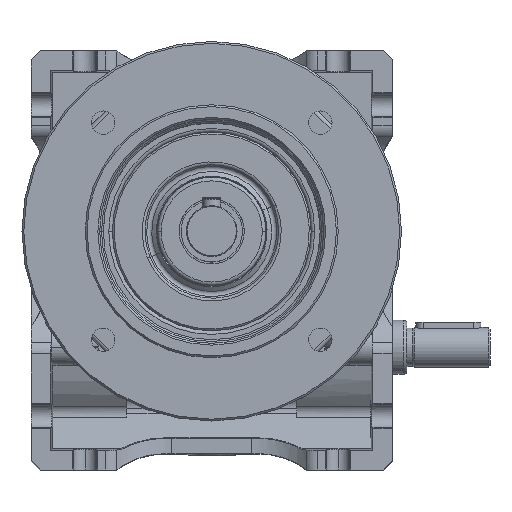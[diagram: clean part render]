
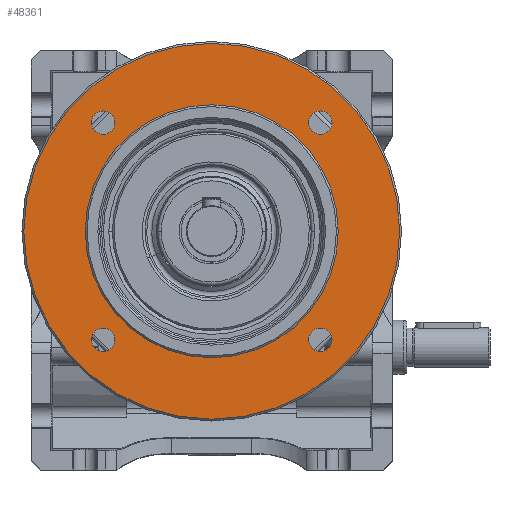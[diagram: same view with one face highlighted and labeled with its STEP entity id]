
A CAD part, top view. The second image highlights one B-rep face of the part: STEP entity #48361.
In plain terms, the highlighted planar face has unit normal (0, 0, 1).
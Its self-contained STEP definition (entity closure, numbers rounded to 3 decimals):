
#720 = AXIS2_PLACEMENT_3D ( 'NONE', #36826, #24866, #37346 ) ;
#1003 = CARTESIAN_POINT ( 'NONE',  ( -35., 0., 70. ) ) ;
#1624 = AXIS2_PLACEMENT_3D ( 'NONE', #22943, #18766, #38324 ) ;
#2884 = FACE_BOUND ( 'NONE', #39387, .T. ) ;
#3879 = CARTESIAN_POINT ( 'NONE',  ( -52., 0., 70. ) ) ;
#4075 = DIRECTION ( 'NONE',  ( 0., 0., 1. ) ) ;
#4973 = AXIS2_PLACEMENT_3D ( 'NONE', #51136, #12283, #36264 ) ;
#5069 = ORIENTED_EDGE ( 'NONE', *, *, #43806, .F. ) ;
#5365 = VERTEX_POINT ( 'NONE', #16917 ) ;
#5403 = DIRECTION ( 'NONE',  ( 1., 0., 0. ) ) ;
#5831 = VERTEX_POINT ( 'NONE', #22336 ) ;
#6429 = CARTESIAN_POINT ( 'NONE',  ( -30.052, -30.052, 70. ) ) ;
#6745 = DIRECTION ( 'NONE',  ( -1., 0., 0. ) ) ;
#7014 = VERTEX_POINT ( 'NONE', #39013 ) ;
#7044 = FACE_BOUND ( 'NONE', #48764, .T. ) ;
#7054 = EDGE_CURVE ( 'NONE', #30769, #21423, #38979, .T. ) ;
#7215 = CIRCLE ( 'NONE', #20531, 3.25 ) ;
#7261 = CIRCLE ( 'NONE', #28203, 52. ) ;
#7556 = DIRECTION ( 'NONE',  ( -1., 0., 0. ) ) ;
#7779 = DIRECTION ( 'NONE',  ( 0., 0., -1. ) ) ;
#8181 = EDGE_CURVE ( 'NONE', #9002, #15188, #19070, .T. ) ;
#8414 = ORIENTED_EDGE ( 'NONE', *, *, #8181, .F. ) ;
#9002 = VERTEX_POINT ( 'NONE', #31670 ) ;
#9049 = ORIENTED_EDGE ( 'NONE', *, *, #38537, .T. ) ;
#9513 = DIRECTION ( 'NONE',  ( 1., 0., 0. ) ) ;
#9802 = AXIS2_PLACEMENT_3D ( 'NONE', #6429, #37968, #5403 ) ;
#10038 = DIRECTION ( 'NONE',  ( 0., 0., 1. ) ) ;
#10497 = CIRCLE ( 'NONE', #31309, 35. ) ;
#10691 = PLANE ( 'NONE',  #1624 ) ;
#11184 = EDGE_LOOP ( 'NONE', ( #9049, #19830 ) ) ;
#11483 = CIRCLE ( 'NONE', #35611, 52. ) ;
#12283 = DIRECTION ( 'NONE',  ( 0., 0., -1. ) ) ;
#14496 = DIRECTION ( 'NONE',  ( 1., 0., 0. ) ) ;
#15188 = VERTEX_POINT ( 'NONE', #18226 ) ;
#16249 = ORIENTED_EDGE ( 'NONE', *, *, #7054, .F. ) ;
#16917 = CARTESIAN_POINT ( 'NONE',  ( 52., 0., 70. ) ) ;
#16992 = ORIENTED_EDGE ( 'NONE', *, *, #27308, .F. ) ;
#18226 = CARTESIAN_POINT ( 'NONE',  ( -33.302, 30.052, 70. ) ) ;
#18290 = EDGE_CURVE ( 'NONE', #15188, #9002, #28530, .T. ) ;
#18766 = DIRECTION ( 'NONE',  ( 0., 0., -1. ) ) ;
#18958 = CIRCLE ( 'NONE', #9802, 3.25 ) ;
#18996 = AXIS2_PLACEMENT_3D ( 'NONE', #30919, #4075, #23629 ) ;
#19070 = CIRCLE ( 'NONE', #20788, 3.25 ) ;
#19830 = ORIENTED_EDGE ( 'NONE', *, *, #39257, .T. ) ;
#20531 = AXIS2_PLACEMENT_3D ( 'NONE', #25300, #22854, #25044 ) ;
#20763 = ORIENTED_EDGE ( 'NONE', *, *, #18290, .F. ) ;
#20788 = AXIS2_PLACEMENT_3D ( 'NONE', #36203, #23201, #35949 ) ;
#21263 = CARTESIAN_POINT ( 'NONE',  ( 0., 0., 70. ) ) ;
#21423 = VERTEX_POINT ( 'NONE', #46394 ) ;
#21681 = ORIENTED_EDGE ( 'NONE', *, *, #23223, .F. ) ;
#21982 = ORIENTED_EDGE ( 'NONE', *, *, #46647, .F. ) ;
#22018 = CARTESIAN_POINT ( 'NONE',  ( 30.052, -30.052, 70. ) ) ;
#22127 = CARTESIAN_POINT ( 'NONE',  ( 26.802, -30.052, 70. ) ) ;
#22336 = CARTESIAN_POINT ( 'NONE',  ( -26.802, -30.052, 70. ) ) ;
#22687 = FACE_BOUND ( 'NONE', #47055, .T. ) ;
#22854 = DIRECTION ( 'NONE',  ( 0., 0., 1. ) ) ;
#22943 = CARTESIAN_POINT ( 'NONE',  ( 0., 52.5, 70. ) ) ;
#23123 = EDGE_LOOP ( 'NONE', ( #5069, #21982 ) ) ;
#23201 = DIRECTION ( 'NONE',  ( 0., 0., 1. ) ) ;
#23212 = EDGE_LOOP ( 'NONE', ( #16992, #21681 ) ) ;
#23223 = EDGE_CURVE ( 'NONE', #45192, #40203, #28855, .T. ) ;
#23629 = DIRECTION ( 'NONE',  ( 1., 0., 0. ) ) ;
#24346 = AXIS2_PLACEMENT_3D ( 'NONE', #34510, #33732, #34760 ) ;
#24866 = DIRECTION ( 'NONE',  ( 0., 0., 1. ) ) ;
#25044 = DIRECTION ( 'NONE',  ( 1., 0., 0. ) ) ;
#25300 = CARTESIAN_POINT ( 'NONE',  ( -30.052, -30.052, 70. ) ) ;
#27253 = ORIENTED_EDGE ( 'NONE', *, *, #38370, .F. ) ;
#27308 = EDGE_CURVE ( 'NONE', #40203, #45192, #41483, .T. ) ;
#28203 = AXIS2_PLACEMENT_3D ( 'NONE', #43738, #39593, #7556 ) ;
#28434 = VERTEX_POINT ( 'NONE', #3879 ) ;
#28530 = CIRCLE ( 'NONE', #24346, 3.25 ) ;
#28855 = CIRCLE ( 'NONE', #36301, 3.25 ) ;
#29250 = CARTESIAN_POINT ( 'NONE',  ( 35., 0., 70. ) ) ;
#29750 = FACE_BOUND ( 'NONE', #23212, .T. ) ;
#30117 = DIRECTION ( 'NONE',  ( -1., 0., 0. ) ) ;
#30355 = CARTESIAN_POINT ( 'NONE',  ( 33.302, 30.052, 70. ) ) ;
#30686 = AXIS2_PLACEMENT_3D ( 'NONE', #22018, #37144, #9513 ) ;
#30769 = VERTEX_POINT ( 'NONE', #30355 ) ;
#30919 = CARTESIAN_POINT ( 'NONE',  ( 30.052, 30.052, 70. ) ) ;
#31309 = AXIS2_PLACEMENT_3D ( 'NONE', #42430, #7779, #6745 ) ;
#31670 = CARTESIAN_POINT ( 'NONE',  ( -26.802, 30.052, 70. ) ) ;
#31810 = VERTEX_POINT ( 'NONE', #1003 ) ;
#32340 = CIRCLE ( 'NONE', #720, 3.25 ) ;
#33732 = DIRECTION ( 'NONE',  ( 0., 0., 1. ) ) ;
#34510 = CARTESIAN_POINT ( 'NONE',  ( -30.052, 30.052, 70. ) ) ;
#34760 = DIRECTION ( 'NONE',  ( 1., 0., 0. ) ) ;
#35611 = AXIS2_PLACEMENT_3D ( 'NONE', #21263, #10038, #30117 ) ;
#35949 = DIRECTION ( 'NONE',  ( 1., 0., 0. ) ) ;
#36203 = CARTESIAN_POINT ( 'NONE',  ( -30.052, 30.052, 70. ) ) ;
#36264 = DIRECTION ( 'NONE',  ( -1., 0., 0. ) ) ;
#36301 = AXIS2_PLACEMENT_3D ( 'NONE', #50220, #49966, #14496 ) ;
#36826 = CARTESIAN_POINT ( 'NONE',  ( 30.052, 30.052, 70. ) ) ;
#37144 = DIRECTION ( 'NONE',  ( 0., 0., 1. ) ) ;
#37346 = DIRECTION ( 'NONE',  ( 1., 0., 0. ) ) ;
#37968 = DIRECTION ( 'NONE',  ( 0., 0., 1. ) ) ;
#38324 = DIRECTION ( 'NONE',  ( -1., 0., 0. ) ) ;
#38370 = EDGE_CURVE ( 'NONE', #21423, #30769, #32340, .T. ) ;
#38537 = EDGE_CURVE ( 'NONE', #28434, #5365, #7261, .T. ) ;
#38979 = CIRCLE ( 'NONE', #18996, 3.25 ) ;
#39013 = CARTESIAN_POINT ( 'NONE',  ( -33.302, -30.052, 70. ) ) ;
#39257 = EDGE_CURVE ( 'NONE', #5365, #28434, #11483, .T. ) ;
#39367 = ORIENTED_EDGE ( 'NONE', *, *, #45282, .T. ) ;
#39387 = EDGE_LOOP ( 'NONE', ( #16249, #27253 ) ) ;
#39593 = DIRECTION ( 'NONE',  ( 0., 0., 1. ) ) ;
#40203 = VERTEX_POINT ( 'NONE', #43233 ) ;
#41483 = CIRCLE ( 'NONE', #30686, 3.25 ) ;
#42430 = CARTESIAN_POINT ( 'NONE',  ( 0., 0., 70. ) ) ;
#42473 = FACE_BOUND ( 'NONE', #23123, .T. ) ;
#42746 = ORIENTED_EDGE ( 'NONE', *, *, #48060, .T. ) ;
#43233 = CARTESIAN_POINT ( 'NONE',  ( 33.302, -30.052, 70. ) ) ;
#43738 = CARTESIAN_POINT ( 'NONE',  ( 0., 0., 70. ) ) ;
#43806 = EDGE_CURVE ( 'NONE', #5831, #7014, #7215, .T. ) ;
#45192 = VERTEX_POINT ( 'NONE', #22127 ) ;
#45282 = EDGE_CURVE ( 'NONE', #48337, #31810, #10497, .T. ) ;
#46394 = CARTESIAN_POINT ( 'NONE',  ( 26.802, 30.052, 70. ) ) ;
#46647 = EDGE_CURVE ( 'NONE', #7014, #5831, #18958, .T. ) ;
#47055 = EDGE_LOOP ( 'NONE', ( #8414, #20763 ) ) ;
#48060 = EDGE_CURVE ( 'NONE', #31810, #48337, #49056, .T. ) ;
#48337 = VERTEX_POINT ( 'NONE', #29250 ) ;
#48361 = ADVANCED_FACE ( 'NONE', ( #49529, #42473, #29750, #2884, #22687, #7044 ), #10691, .F. ) ;
#48764 = EDGE_LOOP ( 'NONE', ( #42746, #39367 ) ) ;
#49056 = CIRCLE ( 'NONE', #4973, 35. ) ;
#49529 = FACE_OUTER_BOUND ( 'NONE', #11184, .T. ) ;
#49966 = DIRECTION ( 'NONE',  ( 0., 0., 1. ) ) ;
#50220 = CARTESIAN_POINT ( 'NONE',  ( 30.052, -30.052, 70. ) ) ;
#51136 = CARTESIAN_POINT ( 'NONE',  ( 0., 0., 70. ) ) ;
